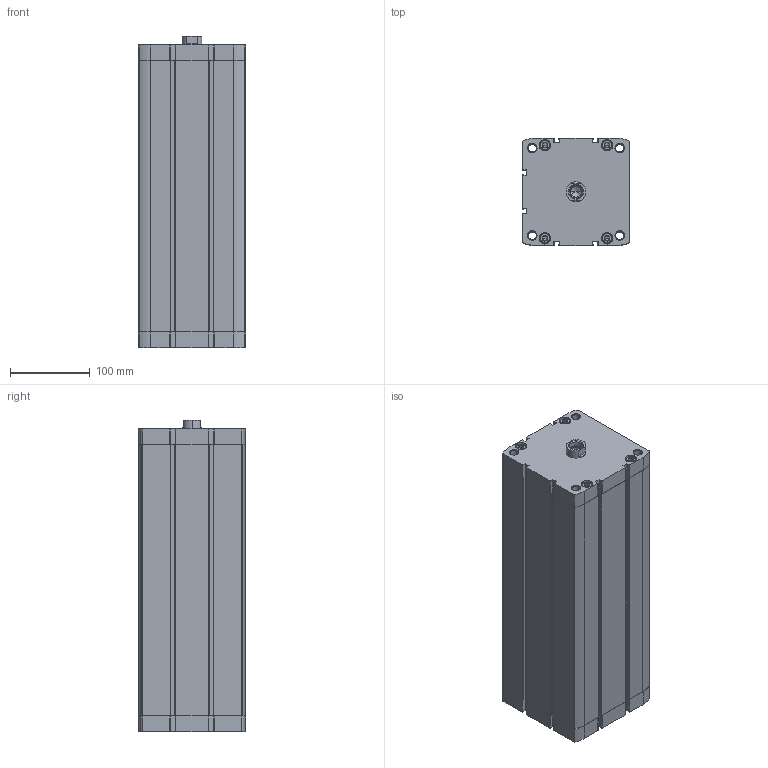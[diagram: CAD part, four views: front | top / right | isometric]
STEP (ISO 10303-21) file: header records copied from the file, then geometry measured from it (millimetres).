
FILE_DESCRIPTION (( 'STEP AP203' ), '1' );
FILE_NAME ('CCN125-300F.STEP', '2020-06-05T19:31:08', ( '' ), ( '' ), 'SwSTEP 2.0', 'SolidWorks 2019', '' );
FILE_SCHEMA (( 'CONFIG_CONTROL_DESIGN' ));
Length unit declared in the file: millimetre
Products named in the file (1): CCN125-300F
Bounding box: 134.6 x 134.6 x 392 mm (x, y, z)
Volume: 3066872.8 mm3; surface area: 539906.8 mm2
Topology: 2 solids, 2 shells, 535 faces, 1370 edges, 861 vertices
Faces by surface type: plane 267, cylinder 194, cone 74
Entity records: 17215 total; most frequent: CARTESIAN_POINT 3931, DIRECTION 2876, ORIENTED_EDGE 2704, EDGE_CURVE 1352, AXIS2_PLACEMENT_3D 1054, VERTEX_POINT 861, LINE 768, VECTOR 768
